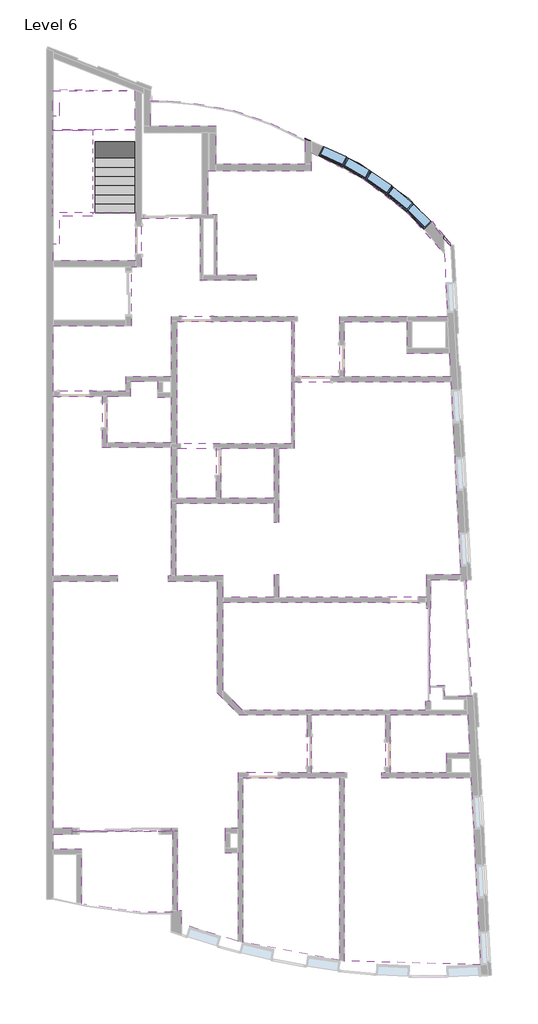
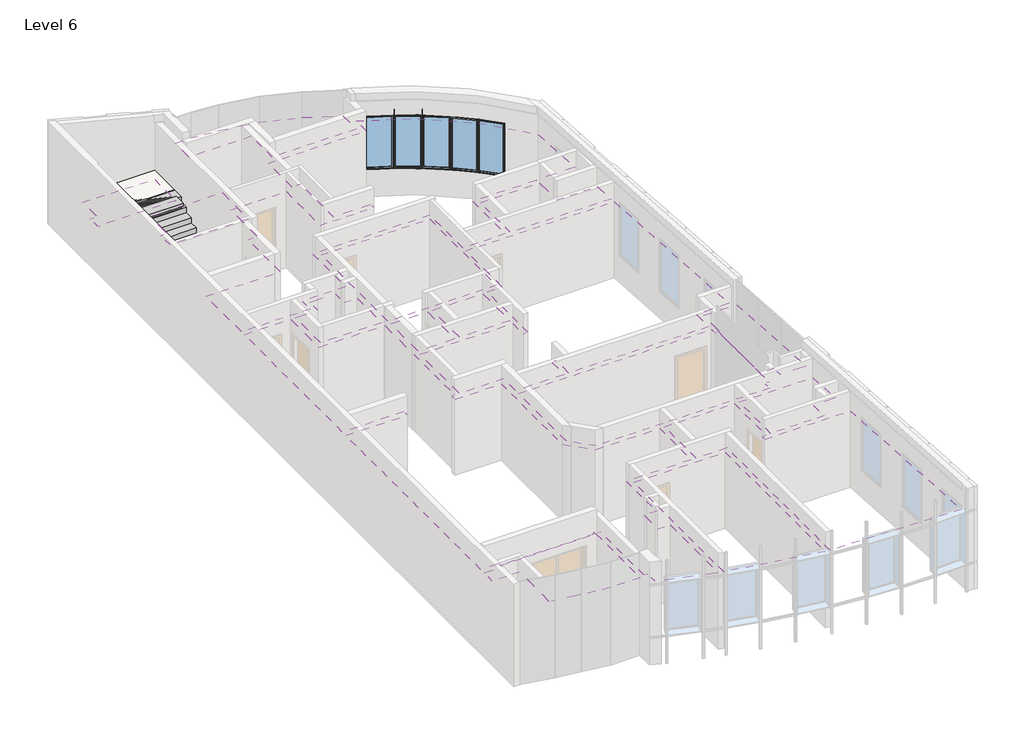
# One storey, part 5 of 5: 17 coverings, 5 windows, 2 proxies, 2 stair flights, 1 slab.
"""IFC4 building model written with IfcOpenShell, lengths in millimetres."""

from ifc_helpers import new_model, si_unit, point, frame, frame_2d, origin, place, context, project, spatial, polyline, circle_curve, trimmed, segment, composite_curve, outline, extrude, faceted_brep, transform, mapped, element, save
from components import m_fixed_0815_x_1830mm_2_6a11e188

model = new_model("IFC4")

# Units and contexts
model_context = context("Model", 3, world=origin())
ifc_project = project(units=[si_unit("LENGTHUNIT", "METRE", prefix="MILLI")], contexts=[model_context])

# Site, building, storey
site = spatial("IfcSite", under=ifc_project)
building = spatial("IfcBuilding", under=site)
storey = spatial("IfcBuildingStorey", under=building, Name="Level 6", Elevation=22000.0)

# Proxies
placement = place(None, origin())
element("IfcBuildingElementProxy", 1, Name="Reveal", ObjectType="Reveal", at=placement, inside=storey, context=model_context, shape_type="SweptSolid", body=[
    extrude(outline(composite_curve([segment(trimmed(circle_curve(frame_2d((4535.6080259, 3399.2748166)), 9525.0), [point((12124.5482533, 9155.45508))], [point((7662.3072504, 12396.4619859))], True, "CARTESIAN"), True, "CONTINUOUS"), segment(polyline([(7662.3072504, 12396.4619859), (7662.3072504, 12449.3785154)]), True, "CONTINUOUS"), segment(trimmed(circle_curve(frame_2d((4535.6080259, 3399.2748166)), 9575.0), [point((7662.3072504, 12449.3785154))], [point((12120.0590293, 9243.6505726))], False, "CARTESIAN"), True, "CONTINUOUS"), segment(polyline([(12120.0590293, 9243.6505726), (12124.5482533, 9155.45508)]), True, "CONTINUOUS")], self_intersect=False)), frame((0.0, 0.0, 22875.0), z_axis=(0.0, 0.0, 1.0), x_axis=(1.0, 0.0, 0.0)), (0.0, 0.0, 1.0), 50.0),
])
element("IfcBuildingElementProxy", 2, Name="Reveal", ObjectType="Reveal", at=placement, inside=storey, context=model_context, shape_type="SweptSolid", body=[
    extrude(outline(composite_curve([segment(trimmed(circle_curve(frame_2d((4535.6080259, 3399.2748166)), 9525.0), [point((12124.5482533, 9155.45508))], [point((11527.266896, 9867.8396686))], True, "CARTESIAN"), True, "CONTINUOUS"), segment(polyline([(11527.266896, 9867.8396686), (11562.5143185, 9903.3668328)]), True, "CONTINUOUS"), segment(trimmed(circle_curve(frame_2d((4535.6080259, 3399.2748166)), 9575.0), [point((11562.5143185, 9903.3668328))], [point((12120.0590293, 9243.6505726))], False, "CARTESIAN"), True, "CONTINUOUS"), segment(polyline([(12120.0590293, 9243.6505726), (12124.5482533, 9155.45508)]), True, "CONTINUOUS")], self_intersect=False)), frame((0.0, 0.0, 24695.0), z_axis=(0.0, 0.0, 1.0), x_axis=(1.0, 0.0, 0.0)), (0.0, 0.0, 1.0), 50.0),
    extrude(outline(composite_curve([segment(trimmed(circle_curve(frame_2d((4535.6080259, 3399.2748166)), 9525.0), [point((8210.516289, 12186.8042907))], [point((7662.3072504, 12396.4619859))], True, "CARTESIAN"), True, "CONTINUOUS"), segment(polyline([(7662.3072504, 12396.4619859), (7662.3072504, 12449.3785154)]), True, "CONTINUOUS"), segment(trimmed(circle_curve(frame_2d((4535.6080259, 3399.2748166)), 9575.0), [point((7662.3072504, 12449.3785154))], [point((8231.7823405, 12232.1067767))], False, "CARTESIAN"), True, "CONTINUOUS"), segment(polyline([(8231.7823405, 12232.1067767), (8210.516289, 12186.8042907)]), True, "CONTINUOUS")], self_intersect=False)), frame((0.0, 0.0, 24695.0), z_axis=(0.0, 0.0, 1.0), x_axis=(1.0, 0.0, 0.0)), (0.0, 0.0, 1.0), 50.0),
    extrude(outline(composite_curve([segment(trimmed(circle_curve(frame_2d((4535.6080259, 3399.2748166)), 9525.0), [point((8957.9716481, 11835.4069275))], [point((8948.2742549, 11840.4833647))], True, "CARTESIAN"), True, "CONTINUOUS"), segment(polyline([(8948.2742549, 11840.4833647), (8969.5403064, 11885.7858507)]), True, "CONTINUOUS"), segment(trimmed(circle_curve(frame_2d((4535.6080259, 3399.2748166)), 9575.0), [point((8969.5403064, 11885.7858507))], [point((8983.0823429, 11878.6968016))], False, "CARTESIAN"), True, "CONTINUOUS"), segment(polyline([(8983.0823429, 11878.6968016), (8957.9716481, 11835.4069275)]), True, "CONTINUOUS")], self_intersect=False)), frame((0.0, 0.0, 24695.0), z_axis=(0.0, 0.0, 1.0), x_axis=(1.0, 0.0, 0.0)), (0.0, 0.0, 1.0), 50.0),
    extrude(outline(composite_curve([segment(trimmed(circle_curve(frame_2d((4535.6080259, 3399.2748166)), 9525.0), [point((9668.2107942, 11423.1151579))], [point((9662.9539178, 11426.4753937))], True, "CARTESIAN"), True, "CONTINUOUS"), segment(polyline([(9662.9539178, 11426.4753937), (9688.0646126, 11469.7652678)]), True, "CONTINUOUS"), segment(trimmed(circle_curve(frame_2d((4535.6080259, 3399.2748166)), 9575.0), [point((9688.0646126, 11469.7652678))], [point((9696.9570845, 11464.0811314))], False, "CARTESIAN"), True, "CONTINUOUS"), segment(polyline([(9696.9570845, 11464.0811314), (9668.2107942, 11423.1151579)]), True, "CONTINUOUS")], self_intersect=False)), frame((0.0, 0.0, 24695.0), z_axis=(0.0, 0.0, 1.0), x_axis=(1.0, 0.0, 0.0)), (0.0, 0.0, 1.0), 50.0),
    extrude(outline(composite_curve([segment(trimmed(circle_curve(frame_2d((4535.6080259, 3399.2748166)), 9525.0), [point((10340.2860207, 10951.1844014))], [point((10335.3479854, 10954.9773917))], True, "CARTESIAN"), True, "CONTINUOUS"), segment(polyline([(10335.3479854, 10954.9773917), (10364.0942756, 10995.9433652)]), True, "CONTINUOUS"), segment(trimmed(circle_curve(frame_2d((4535.6080259, 3399.2748166)), 9575.0), [point((10364.0942756, 10995.9433652))], [point((10372.454166, 10989.521989))], False, "CARTESIAN"), True, "CONTINUOUS"), segment(polyline([(10372.454166, 10989.521989), (10340.2860207, 10951.1844014)]), True, "CONTINUOUS")], self_intersect=False)), frame((0.0, 0.0, 24695.0), z_axis=(0.0, 0.0, 1.0), x_axis=(1.0, 0.0, 0.0)), (0.0, 0.0, 1.0), 50.0),
])

# Coverings
element("IfcCovering", 3, ObjectType="600 x 600mm Grid", at=placement, inside=storey, context=model_context, shape_type="SweptSolid", body=[
    extrude(outline(polyline([(3749.9578779, 6844.2927825), (7249.9578779, 6844.2927825), (7249.9578779, 3106.8778064), (3749.9578779, 3106.8778064), (3749.9578779, 6844.2927825)])), frame((0.0, 0.0, 24600.0), z_axis=(0.0, 0.0, 1.0), x_axis=(1.0, 0.0, 0.0)), (0.0, 0.0, 1.0), 52.0),
])
element("IfcCovering", 4, ObjectType="600 x 600mm Grid", at=placement, inside=storey, context=model_context, shape_type="SweptSolid", body=[
    extrude(outline(polyline([(10788.049349, 5875.0705769), (12091.2636332, 5875.0705769), (12128.2063311, 5149.2927029), (8869.9578779, 5149.2927029), (8869.9578779, 6830.3684627), (10788.049349, 6830.3684627), (10788.049349, 5875.0705769)])), frame((0.0, 0.0, 24600.0), z_axis=(0.0, 0.0, 1.0), x_axis=(1.0, 0.0, 0.0)), (0.0, 0.0, 1.0), 52.0),
])
element("IfcCovering", 5, ObjectType="600 x 600mm Grid", at=placement, inside=storey, context=model_context, shape_type="SweptSolid", body=[
    extrude(outline(composite_curve([segment(polyline([(10005.6168737, -7123.7981953), (12752.9168737, -7123.7981953), (13044.0399551, -12843.2151043)]), True, "CONTINUOUS"), segment(trimmed(circle_curve(frame_2d((11609.3245394, 10843.3737526)), 23730.0), [point((13044.0399551, -12843.2151043))], [point((8870.2907737, -12728.0198004))], False, "CARTESIAN"), True, "CONTINUOUS"), segment(polyline([(8870.2907737, -12728.0198004), (8870.2907737, -6973.7981953), (7870.2909314, -6973.7981953), (7870.2909314, -5198.7981953), (10130.2907737, -5198.7981953), (10130.2907737, -6973.7981953), (10005.6168737, -6973.7981953), (10005.6168737, -7123.7981953)]), True, "CONTINUOUS")], self_intersect=False)), frame((0.0, 0.0, 24600.0), z_axis=(0.0, 0.0, 1.0), x_axis=(1.0, 0.0, 0.0)), (0.0, 0.0, 1.0), 52.0),
])
element("IfcCovering", 6, ObjectType="600 x 600mm Grid", at=placement, inside=storey, context=model_context, shape_type="SweptSolid", body=[
    extrude(outline(polyline([(10280.2907737, -5198.7981953), (12654.9327714, -5198.7981953), (12714.7412494, -6373.7981953), (11997.4732011, -6373.7981953), (11997.4732011, -6973.7981953), (10280.2907737, -6973.7981953), (10280.2907737, -5198.7981953)])), frame((0.0, 0.0, 24600.0), z_axis=(0.0, 0.0, 1.0), x_axis=(1.0, 0.0, 0.0)), (0.0, 0.0, 1.0), 52.0),
])
element("IfcCovering", 7, ObjectType="600 x 600mm Grid", at=placement, inside=storey, context=model_context, shape_type="SweptSolid", body=[
    extrude(outline(polyline([(5089.9578779, 1426.8778064), (5089.9578779, 2956.8778064), (6719.9578779, 2956.8778064), (6719.9578779, 1426.8778064), (5089.9578779, 1426.8778064)])), frame((0.0, 0.0, 24600.0), z_axis=(0.0, 0.0, 1.0), x_axis=(1.0, 0.0, 0.0)), (0.0, 0.0, 1.0), 52.0),
])
element("IfcCovering", 8, ObjectType="600 x 600mm Grid", at=placement, inside=storey, context=model_context, shape_type="SweptSolid", body=[
    extrude(outline(polyline([(3569.9578779, 4516.8864855), (3569.9578779, 3136.8778064), (1599.9578776, 3136.8778064), (1599.9578776, 4556.8830582), (2319.9578779, 4556.8830582), (2319.9578779, 5006.8860701), (3149.9574416, 5006.8860701), (3149.9574416, 4516.8864855), (3569.9578779, 4516.8864855)])), frame((0.0, 0.0, 24600.0), z_axis=(0.0, 0.0, 1.0), x_axis=(1.0, 0.0, 0.0)), (0.0, 0.0, 1.0), 52.0),
])
element("IfcCovering", 9, ObjectType="600 x 600mm Grid", at=placement, inside=storey, context=model_context, shape_type="SweptSolid", body=[
    extrude(outline(composite_curve([segment(polyline([(11936.5482631, 8914.6155682), (12034.2942913, 6994.2927825), (10782.6929286, 6994.2927825), (10782.6929286, 6980.3684627), (8719.9578779, 6980.3684627), (8719.9578779, 5149.2927029), (7349.9578779, 5149.2927029), (7349.9578779, 6994.2927825), (3569.9578779, 6994.2927825), (3569.9578779, 5156.8860701), (2169.9578779, 5156.8860701), (2169.9578779, 4706.8830582), (-50.0421304, 4706.8830582), (-50.0421304, 6706.8748838), (2350.0654712, 6706.8748838), (2350.0654712, 8516.8748746), (2661.8607589, 8516.8748746), (2661.8607589, 10006.8748959), (4449.2779066, 10006.8748959), (4449.2779066, 8112.262158), (6174.9402277, 8112.262158), (6174.9402277, 8262.262158), (4979.9402277, 8262.262158), (4979.9402277, 10106.8748959), (4699.9587688, 10106.8748959), (4699.9587688, 11454.5991251), (7862.3072504, 11454.5991251), (7862.3072504, 12008.9189597)]), True, "CONTINUOUS"), segment(trimmed(circle_curve(frame_2d((4535.6080259, 3399.2748166)), 9230.0), [point((7862.3072504, 12008.9189597))], [point((11936.5482631, 8914.6155682))], False, "CARTESIAN"), True, "CONTINUOUS")], self_intersect=False)), frame((0.0, 0.0, 24600.0), z_axis=(0.0, 0.0, 1.0), x_axis=(1.0, 0.0, 0.0)), (0.0, 0.0, 1.0), 52.0),
])
element("IfcCovering", 10, ObjectType="600 x 600mm Grid", at=placement, inside=storey, context=model_context, shape_type="SweptSolid", body=[
    extrude(outline(composite_curve([segment(trimmed(circle_curve(frame_2d((11609.3245394, 10843.3737526)), 23730.0), [point((8720.2907737, -12710.1054788))], [point((5770.2907737, -12157.0302587))], False, "CARTESIAN"), True, "CONTINUOUS"), segment(polyline([(5770.2907737, -12157.0302587), (5770.2907737, -7123.7981953), (8720.2907737, -7123.7981953), (8720.2907737, -12710.1054788)]), True, "CONTINUOUS")], self_intersect=False)), frame((0.0, 0.0, 24600.0), z_axis=(0.0, 0.0, 1.0), x_axis=(1.0, 0.0, 0.0)), (0.0, 0.0, 1.0), 52.0),
])
element("IfcCovering", 11, ObjectType="600 x 600mm Grid", at=placement, inside=storey, context=model_context, shape_type="SweptSolid", body=[
    extrude(outline(composite_curve([segment(polyline([(-50.0421304, -8662.2362629), (-50.0421304, -1113.1221936), (1933.9578781, -1113.1221936), (1933.9578781, -933.1221936), (-50.0421304, -933.1221936), (-50.0421304, 4556.8830582), (1449.9578776, 4556.8830582), (1449.9578776, 2986.8778064), (3569.9578779, 2986.8778064), (3569.9578779, 1351.8778064), (3569.9578779, -933.1221936), (3473.9578779, -933.1221936), (3473.9578779, -1113.1221936), (4969.9578778, -1113.1221936), (4969.9578778, -4517.9715169), (5643.7897147, -5198.7981953), (7720.2909314, -5198.7981953), (7720.2909314, -6973.7981953), (5620.2907737, -6973.7981953), (5620.2907737, -8662.29082), (5223.5699518, -8662.29082), (5223.5699518, -9422.4272222), (5620.2907737, -9422.4272222), (5620.2907737, -12118.4287584)]), True, "CONTINUOUS"), segment(trimmed(circle_curve(frame_2d((11609.3245394, 10843.3737526)), 23730.0), [point((5620.2907737, -12118.4287584))], [point((3880.252741, -11592.6318887))], False, "CARTESIAN"), True, "CONTINUOUS"), segment(polyline([(3880.252741, -11592.6318887), (3880.252741, -11189.3160932), (3760.252741, -11189.3160932), (3760.252741, -8757.0181124), (3600.5670169, -8757.0181124), (3600.5670169, -8673.6141586), (3557.6788606, -8673.6141586), (3557.6788606, -8757.0181124), (529.9578696, -8757.0181124), (529.9578696, -8662.2362629), (-50.0421304, -8662.2362629)]), True, "CONTINUOUS")], self_intersect=False)), frame((0.0, 0.0, 24600.0), z_axis=(0.0, 0.0, 1.0), x_axis=(1.0, 0.0, 0.0)), (0.0, 0.0, 1.0), 52.0),
])
element("IfcCovering", 12, ObjectType="600 x 600mm Grid", at=placement, inside=storey, context=model_context, shape_type="SweptSolid", body=[
    extrude(outline(polyline([(-50.0421304, -9312.1185157), (-50.0421304, -8842.2362629), (529.9578696, -8842.2362629), (529.9578696, -8757.0181124), (3610.252741, -8757.0181124), (3610.252741, -11236.9456492), (2620.252741, -11236.9456492), (1746.4600136, -11114.1420899), (974.05092, -11005.5870712), (829.9393362, -10974.9552084), (829.9393362, -9312.1185157), (-50.0421304, -9312.1185157)])), frame((0.0, 0.0, 24600.0), z_axis=(0.0, 0.0, 1.0), x_axis=(1.0, 0.0, 0.0)), (0.0, 0.0, 1.0), 52.0),
])
element("IfcCovering", 13, ObjectType="600 x 600mm Grid", at=placement, inside=storey, context=model_context, shape_type="SweptSolid", body=[
    extrude(outline(polyline([(11529.9578778, -1933.9547288), (11529.9578778, -1053.8603265), (12594.2109056, -1053.8603265), (12655.9511875, -2266.8126319), (12714.9198118, -3425.3128267), (12776.048406, -4626.2478876), (11949.9334783, -4624.2050678), (11933.314431, -4297.7065316), (11490.9685725, -4320.222304), (11490.9685725, -1933.9547288), (11529.9578778, -1933.9547288)])), frame((0.0, 0.0, 24600.0), z_axis=(0.0, 0.0, 1.0), x_axis=(1.0, 0.0, 0.0)), (0.0, 0.0, 1.0), 52.0),
])
element("IfcCovering", 14, ObjectType="600 x 600mm Grid", at=placement, inside=storey, context=model_context, shape_type="SweptSolid", body=[
    extrude(outline(polyline([(5149.9578778, -4443.9569428), (5149.9578778, -1753.9547298), (11379.9578778, -1753.9547298), (11379.9578778, -1933.9547288), (11490.9685725, -1933.9547288), (11490.9685725, -4783.8440392), (11349.9578778, -4783.8440392), (11349.9578778, -5048.7981953), (5748.5849662, -5048.7981953), (5149.9578778, -4443.9569428)])), frame((0.0, 0.0, 24600.0), z_axis=(0.0, 0.0, 1.0), x_axis=(1.0, 0.0, 0.0)), (0.0, 0.0, 1.0), 52.0),
])
element("IfcCovering", 15, ObjectType="600 x 600mm Grid", at=placement, inside=storey, context=model_context, shape_type="SweptSolid", body=[
    extrude(outline(polyline([(7349.9578779, 2956.8778064), (7349.9578779, 4999.2927029), (12135.8414559, 4999.2927029), (12436.3168588, -903.8603265), (11379.9578778, -903.8603265), (11379.9578778, -1603.9547298), (6869.9578779, -1603.9547298), (6869.9578779, -903.9547298), (6719.9578779, -903.9547298), (6719.9578779, -1603.9547298), (5149.9578778, -1603.9547298), (5149.9578778, -933.1221936), (3719.9578779, -933.1221936), (3719.9578779, 1276.8778064), (6719.9578779, 1276.8778064), (6719.9578779, 696.0452702), (6869.9578779, 696.0452702), (6869.9578779, 2956.8778064), (7349.9578779, 2956.8778064)])), frame((0.0, 0.0, 24600.0), z_axis=(0.0, 0.0, 1.0), x_axis=(1.0, 0.0, 0.0)), (0.0, 0.0, 1.0), 52.0),
])
element("IfcCovering", 16, ObjectType="600 x 600mm Grid", at=placement, inside=storey, context=model_context, shape_type="SweptSolid", body=[
    extrude(outline(polyline([(3749.9578779, 1426.8778064), (3749.9578779, 2956.8778064), (4939.9578779, 2956.8778064), (4939.9578779, 1426.8778064), (3749.9578779, 1426.8778064)])), frame((0.0, 0.0, 24600.0), z_axis=(0.0, 0.0, 1.0), x_axis=(1.0, 0.0, 0.0)), (0.0, 0.0, 1.0), 52.0),
])
element("IfcCovering", 17, ObjectType="600 x 600mm Grid", at=placement, inside=storey, context=model_context, shape_type="SweptSolid", body=[
    extrude(outline(polyline([(7662.3072504, 12409.1006238), (7662.3072504, 11654.5991251), (4949.6116933, 11654.5991251), (4949.6116933, 12811.9409286), (2939.9587442, 12811.9409286), (2939.9587442, 13599.3570533), (3438.1784244, 13599.3570533), (4275.7806873, 13521.2545862), (5477.246146, 13309.4038095), (6630.7788082, 12912.210661), (7662.3072504, 12409.1006238)])), frame((0.0, 0.0, 24600.0), z_axis=(0.0, 0.0, 1.0), x_axis=(1.0, 0.0, 0.0)), (0.0, 0.0, 1.0), 52.0),
])
element("IfcCovering", 18, ObjectType="600 x 600mm Grid", at=placement, inside=storey, context=model_context, shape_type="SweptSolid", body=[
    extrude(outline(polyline([(2481.8607589, 10179.4957281), (2481.8607589, 8696.8748746), (-50.0421304, 8696.8748746), (-50.0421304, 9219.4957281), (149.9709975, 9219.4957281), (149.9709975, 10179.4957281), (2481.8607589, 10179.4957281)])), frame((0.0, 0.0, 25150.0), z_axis=(0.0, 0.0, 1.0), x_axis=(1.0, 0.0, 0.0)), (0.0, 0.0, 1.0), 52.0),
])
element("IfcCovering", 19, ObjectType="600 x 600mm Grid", at=placement, inside=storey, context=model_context, shape_type="SweptSolid", body=[
    extrude(outline(polyline([(2454.9743495, 13908.8107611), (2454.9743495, 12688.8107611), (2439.3607589, 12688.8107611), (2439.3607589, 12708.2107611), (-17.3392411, 12708.2107611), (-17.3392411, 12688.8107611), (-60.0421304, 12688.8107611), (-60.0421304, 13143.419171), (149.9709975, 13143.419171), (149.9709975, 13943.419171), (2454.9743495, 13908.8107611)])), frame((0.0, 0.0, 23350.0), z_axis=(0.0, 0.0, 1.0), x_axis=(1.0, 0.0, 0.0)), (0.0, 0.0, 1.0), 52.0),
])

# Slab
element("IfcSlab", 20, ObjectType="220mm Thickness", at=placement, inside=storey, context=model_context, shape_type="Brep", body=[
    faceted_brep([(2454.9743495, 13908.8107611, 23657.8947368), (-60.0421304, 13908.8107611, 23657.8947368), (-60.0421304, 12688.8107611, 23657.8947368), (1159.9578696, 12688.8107611, 23657.8947368), (1233.3868495, 12688.8107611, 23657.8947368), (1233.3868495, 12798.8107611, 23657.8947368), (2454.9743495, 12798.8107611, 23657.8947368), (2454.9743495, 13908.8107611, 23437.8947368), (2454.9743495, 12798.8107611, 23547.8947368), (2454.9743495, 12698.8107611, 23547.8947368), (2454.9743495, 12698.8107611, 23437.8947368), (-60.0421304, 13908.8107611, 23437.8947368), (-60.0421304, 12688.8107611, 23437.8947368), (1159.9578696, 12688.8107611, 23437.8947368), (1233.3868495, 12688.8107611, 23437.8947368), (1233.3868495, 12698.8107611, 23437.8947368), (1233.3868495, 12798.8107611, 23547.8947368), (1233.3868495, 12698.8107611, 23547.8947368)], [[[0, 1, 2, 3, 4, 5, 6]], [[7, 0, 6, 8, 9, 10]], [[1, 0, 7, 11]], [[2, 1, 11, 12]], [[3, 2, 12, 13]], [[3, 13, 14, 4]], [[11, 7, 10, 15, 14, 13, 12]], [[16, 17, 9, 8]], [[5, 16, 8, 6]], [[16, 5, 4, 14, 15, 17]], [[9, 17, 15, 10]]]),
])

# Stair flights
element("IfcStairFlight", 21, ObjectType="190mm Depth", at=placement, inside=storey, context=model_context, shape_type="Brep", body=[
    faceted_brep([(1234.9743495, 10448.8107611, 22184.2105263), (1234.9743495, 10168.8107611, 22184.2105263), (2454.9743495, 10168.8107611, 22184.2105263), (2454.9743495, 10448.8107611, 22184.2105263), (1234.9743495, 10448.8107611, 22000.0), (1234.9743495, 10168.8107611, 22000.0), (2454.9743495, 10168.8107611, 22000.0), (2454.9743495, 10448.8107611, 22000.0), (1234.9743495, 10728.8107611, 22368.4210526), (1234.9743495, 10448.8107611, 22368.4210526), (2454.9743495, 10448.8107611, 22368.4210526), (2454.9743495, 10728.8107611, 22368.4210526), (1234.9743495, 10728.8107611, 22140.9897443), (1234.9743495, 10514.5063497, 22000.0), (2454.9743495, 10514.5063497, 22000.0), (2454.9743495, 10728.8107611, 22140.9897443), (1234.9743495, 11008.8107611, 22552.6315789), (1234.9743495, 10728.8107611, 22552.6315789), (2454.9743495, 10728.8107611, 22552.6315789), (2454.9743495, 11008.8107611, 22552.6315789), (1234.9743495, 11008.8107611, 22325.2002706), (2454.9743495, 11008.8107611, 22325.2002706), (1234.9743495, 11288.8107611, 22736.8421053), (1234.9743495, 11008.8107611, 22736.8421053), (2454.9743495, 11008.8107611, 22736.8421053), (2454.9743495, 11288.8107611, 22736.8421053), (1234.9743495, 11288.8107611, 22509.410797), (2454.9743495, 11288.8107611, 22509.410797), (1234.9743495, 11568.8107611, 22921.0526316), (1234.9743495, 11288.8107611, 22921.0526316), (2454.9743495, 11288.8107611, 22921.0526316), (2454.9743495, 11568.8107611, 22921.0526316), (1234.9743495, 11568.8107611, 22693.6213233), (2454.9743495, 11568.8107611, 22693.6213233), (1234.9743495, 11848.8107611, 23105.2631579), (1234.9743495, 11568.8107611, 23105.2631579), (2454.9743495, 11568.8107611, 23105.2631579), (2454.9743495, 11848.8107611, 23105.2631579), (1234.9743495, 11848.8107611, 22877.8318496), (2454.9743495, 11848.8107611, 22877.8318496), (1234.9743495, 12128.8107611, 23289.4736842), (1234.9743495, 11848.8107611, 23289.4736842), (2454.9743495, 11848.8107611, 23289.4736842), (2454.9743495, 12128.8107611, 23289.4736842), (1234.9743495, 12128.8107611, 23062.0423759), (2454.9743495, 12128.8107611, 23062.0423759), (1234.9743495, 12408.8107611, 23473.6842105), (1234.9743495, 12128.8107611, 23473.6842105), (2454.9743495, 12128.8107611, 23473.6842105), (2454.9743495, 12408.8107611, 23473.6842105), (1234.9743495, 12408.8107611, 23246.2529022), (2454.9743495, 12408.8107611, 23246.2529022), (1234.9743495, 12408.8107611, 23657.8947368), (2454.9743495, 12408.8107611, 23657.8947368), (2454.9743495, 12788.8107611, 23657.8947368), (1234.9743495, 12788.8107611, 23657.8947368), (1234.9743495, 12788.8107611, 23557.8947368), (1234.9743495, 12688.8107611, 23557.8947368), (1234.9743495, 12688.8107611, 23430.4634285), (2454.9743495, 12688.8107611, 23430.4634285), (2454.9743495, 12688.8107611, 23557.8947368), (2454.9743495, 12788.8107611, 23557.8947368)], [[[0, 1, 2, 3]], [[1, 0, 4, 5]], [[2, 1, 5, 6]], [[3, 2, 6, 7]], [[8, 9, 10, 11]], [[4, 0, 9, 8, 12, 13]], [[0, 3, 10, 9]], [[3, 7, 14, 15, 11, 10]], [[16, 17, 18, 19]], [[17, 16, 20, 12, 8]], [[8, 11, 18, 17]], [[19, 18, 11, 15, 21]], [[22, 23, 24, 25]], [[23, 22, 26, 20, 16]], [[16, 19, 24, 23]], [[25, 24, 19, 21, 27]], [[28, 29, 30, 31]], [[29, 28, 32, 26, 22]], [[22, 25, 30, 29]], [[31, 30, 25, 27, 33]], [[34, 35, 36, 37]], [[35, 34, 38, 32, 28]], [[28, 31, 36, 35]], [[37, 36, 31, 33, 39]], [[40, 41, 42, 43]], [[41, 40, 44, 38, 34]], [[34, 37, 42, 41]], [[43, 42, 37, 39, 45]], [[46, 47, 48, 49]], [[47, 46, 50, 44, 40]], [[40, 43, 48, 47]], [[49, 48, 43, 45, 51]], [[52, 53, 54, 55]], [[52, 55, 56, 57, 58, 50, 46]], [[46, 49, 53, 52]], [[54, 53, 49, 51, 59, 60, 61]], [[58, 57, 60, 59]], [[5, 4, 13, 14, 7, 6]], [[14, 13, 12, 20, 26, 32, 38, 44, 50, 58, 59, 51, 45, 39, 33, 27, 21, 15]], [[61, 60, 57, 56]], [[61, 56, 55, 54]]]),
])
element("IfcStairFlight", 22, ObjectType="190mm Depth", at=placement, inside=storey, context=model_context, shape_type="Brep", body=[
    faceted_brep([(1159.9578696, 12688.8107611, 23842.1052632), (-60.0421304, 12688.8107611, 23842.1052632), (-60.0421304, 12677.5151724, 23842.1052632), (-60.0421304, 12408.8107611, 23842.1052632), (1159.9578696, 12408.8107611, 23842.1052632), (1159.9578696, 12677.5151724, 23842.1052632), (1159.9578696, 12408.8107611, 23614.6739548), (1159.9578696, 12677.5151724, 23437.8947368), (1159.9578696, 12688.8107611, 23437.8947368), (-60.0421304, 12688.8107611, 23437.8947368), (-60.0421304, 12677.5151724, 23437.8947368), (-60.0421304, 12408.8107611, 23614.6739548), (1159.9578696, 12128.8107611, 24026.3157895), (1159.9578696, 12408.8107611, 24026.3157895), (-60.0421304, 12408.8107611, 24026.3157895), (-60.0421304, 12128.8107611, 24026.3157895), (1159.9578696, 12128.8107611, 23798.8844812), (-60.0421304, 12128.8107611, 23798.8844812), (1159.9578696, 11848.8107611, 24210.5263158), (1159.9578696, 12128.8107611, 24210.5263158), (-60.0421304, 12128.8107611, 24210.5263158), (-60.0421304, 11848.8107611, 24210.5263158), (1159.9578696, 11848.8107611, 23983.0950075), (-60.0421304, 11848.8107611, 23983.0950075), (1159.9578696, 11568.8107611, 24394.7368421), (1159.9578696, 11848.8107611, 24394.7368421), (-60.0421304, 11848.8107611, 24394.7368421), (-60.0421304, 11568.8107611, 24394.7368421), (1159.9578696, 11568.8107611, 24167.3055338), (-60.0421304, 11568.8107611, 24167.3055338), (1159.9578696, 11288.8107611, 24578.9473684), (1159.9578696, 11568.8107611, 24578.9473684), (-60.0421304, 11568.8107611, 24578.9473684), (-60.0421304, 11288.8107611, 24578.9473684), (1159.9578696, 11288.8107611, 24351.5160601), (-60.0421304, 11288.8107611, 24351.5160601), (1159.9578696, 11008.8107611, 24763.1578947), (1159.9578696, 11288.8107611, 24763.1578947), (-60.0421304, 11288.8107611, 24763.1578947), (-60.0421304, 11008.8107611, 24763.1578947), (1159.9578696, 11008.8107611, 24535.7265864), (-60.0421304, 11008.8107611, 24535.7265864), (1159.9578696, 10728.8107611, 24947.3684211), (1159.9578696, 11008.8107611, 24947.3684211), (-60.0421304, 11008.8107611, 24947.3684211), (-60.0421304, 10728.8107611, 24947.3684211), (1159.9578696, 10728.8107611, 24719.9371127), (-60.0421304, 10728.8107611, 24719.9371127), (1159.9578696, 10448.8107611, 25131.5789474), (1159.9578696, 10728.8107611, 25131.5789474), (-60.0421304, 10728.8107611, 25131.5789474), (-60.0421304, 10448.8107611, 25131.5789474), (1159.9578696, 10448.8107611, 24904.1476391), (-60.0421304, 10448.8107611, 24904.1476391), (1159.9578696, 10448.8107611, 25315.7894737), (-60.0421304, 10448.8107611, 25315.7894737), (-60.0421304, 10068.8107611, 25315.7894737), (1159.9578696, 10068.8107611, 25315.7894737), (1159.9578696, 10068.8107611, 25215.7894737), (1159.9578696, 10168.8107611, 25215.7894737), (1159.9578696, 10168.8107611, 25088.3581654), (-60.0421304, 10168.8107611, 25088.3581654), (-60.0421304, 10168.8107611, 25215.7894737), (-60.0421304, 10068.8107611, 25215.7894737)], [[[0, 1, 2, 3, 4, 5]], [[4, 6, 7, 8, 0, 5]], [[1, 0, 8, 9]], [[1, 9, 10, 11, 3, 2]], [[12, 13, 14, 15]], [[13, 12, 16, 6, 4]], [[14, 13, 4, 3]], [[15, 14, 3, 11, 17]], [[18, 19, 20, 21]], [[19, 18, 22, 16, 12]], [[20, 19, 12, 15]], [[21, 20, 15, 17, 23]], [[24, 25, 26, 27]], [[25, 24, 28, 22, 18]], [[26, 25, 18, 21]], [[27, 26, 21, 23, 29]], [[30, 31, 32, 33]], [[31, 30, 34, 28, 24]], [[32, 31, 24, 27]], [[33, 32, 27, 29, 35]], [[36, 37, 38, 39]], [[37, 36, 40, 34, 30]], [[38, 37, 30, 33]], [[39, 38, 33, 35, 41]], [[42, 43, 44, 45]], [[43, 42, 46, 40, 36]], [[44, 43, 36, 39]], [[45, 44, 39, 41, 47]], [[48, 49, 50, 51]], [[49, 48, 52, 46, 42]], [[50, 49, 42, 45]], [[51, 50, 45, 47, 53]], [[54, 55, 56, 57]], [[54, 57, 58, 59, 60, 52, 48]], [[55, 54, 48, 51]], [[56, 55, 51, 53, 61, 62, 63]], [[61, 60, 59, 62]], [[10, 7, 6, 16, 22, 28, 34, 40, 46, 52, 60, 61, 53, 47, 41, 35, 29, 23, 17, 11]], [[7, 10, 9, 8]], [[63, 62, 59, 58]], [[63, 58, 57, 56]]]),
])

# Windows
m_fixed_0815_x_1830mm_2_shape = m_fixed_0815_x_1830mm_2_6a11e188(model_context)
element("IfcWindow", 23, ObjectType="M_Fixed : 0815 x 1830mm 2", at=placement, inside=storey, context=model_context, shape_type="MappedRepresentation", body=[
    mapped(m_fixed_0815_x_1830mm_2_shape, transform((11152.0749385, 10068.2534159, 22595.0), x_axis=(-0.7098961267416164, 0.7043063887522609, 0.0), y_axis=(-0.7043063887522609, -0.7098961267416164, 0.0), z_axis=(0.0, 0.0, 1.0))),
])
element("IfcWindow", 24, ObjectType="M_Fixed : 0815 x 1830mm 2", at=placement, inside=storey, context=model_context, shape_type="MappedRepresentation", body=[
    mapped(m_fixed_0815_x_1830mm_2_shape, transform((10574.0486821, 10595.8117897, 22595.0), x_axis=(-0.7660533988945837, 0.6427769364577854, 0.0), y_axis=(-0.6427769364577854, -0.7660533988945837, 0.0), z_axis=(0.0, 0.0, 1.0))),
])
element("IfcWindow", 25, ObjectType="M_Fixed : 0815 x 1830mm 2", at=placement, inside=storey, context=model_context, shape_type="MappedRepresentation", body=[
    mapped(m_fixed_0815_x_1830mm_2_shape, transform((9931.7154506, 11089.1990441, 22595.0), x_axis=(-0.8185732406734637, 0.5744021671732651, 0.0), y_axis=(-0.5744021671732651, -0.8185732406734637, 0.0), z_axis=(0.0, 0.0, 1.0))),
])
element("IfcWindow", 26, ObjectType="M_Fixed : 0815 x 1830mm 2", at=placement, inside=storey, context=model_context, shape_type="MappedRepresentation", body=[
    mapped(m_fixed_0815_x_1830mm_2_shape, transform((9249.2599573, 11525.4298381, 22595.0), x_axis=(-0.8650089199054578, 0.5017564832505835, 0.0), y_axis=(-0.5017564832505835, -0.8650089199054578, 0.0), z_axis=(0.0, 0.0, 1.0))),
])
element("IfcWindow", 27, ObjectType="M_Fixed : 0815 x 1830mm 2", at=placement, inside=storey, context=model_context, shape_type="MappedRepresentation", body=[
    mapped(m_fixed_0815_x_1830mm_2_shape, transform((8527.5630763, 11903.2271236, 22595.0), x_axis=(-0.9052244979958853, 0.4249336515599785, 0.0), y_axis=(-0.4249336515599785, -0.9052244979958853, 0.0), z_axis=(0.0, 0.0, 1.0))),
])

save(model, "model.ifc")
